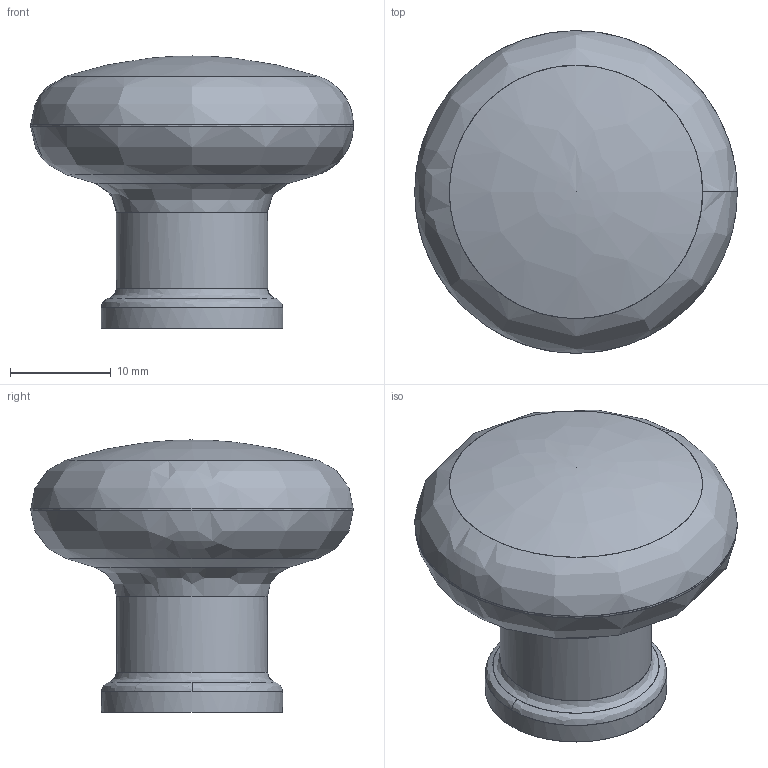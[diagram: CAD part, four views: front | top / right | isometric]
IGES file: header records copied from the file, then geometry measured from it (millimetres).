
Start section: C
Global section: file name: 0385-32.igs; native system: By Siemens PLM Incorporated; preprocessor: XPlus GENERIC/IGES 16.0.42; author: Author; organization: Title; date: 20231211.120810; units: millimetre
Bounding box: 32 x 31.99 x 27 mm (x, y, z)
Surface area: 6468.6 mm2 (no closed solid volume)
Topology: 0 solids, 0 shells, 36 faces, 198 edges, 196 vertices
Faces by surface type: bspline 36
